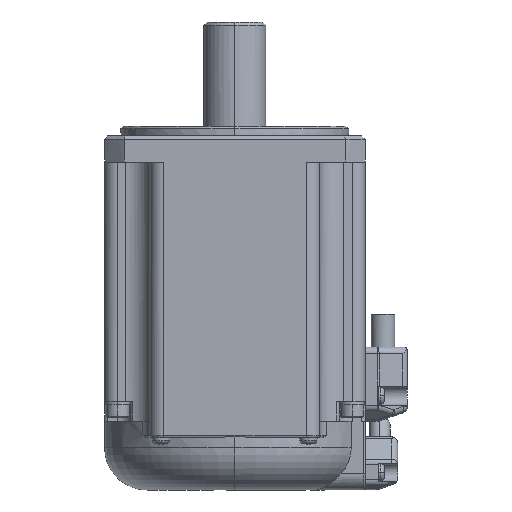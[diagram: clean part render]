
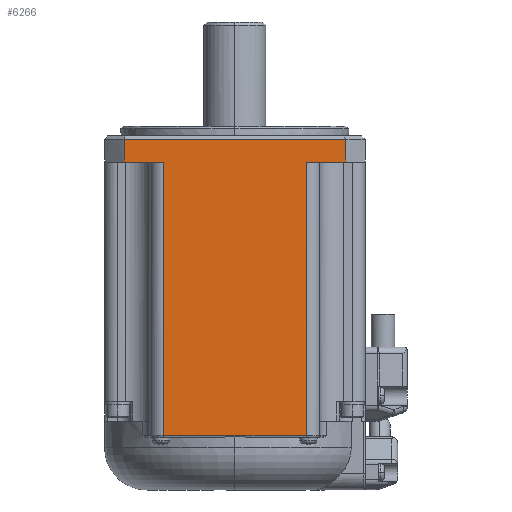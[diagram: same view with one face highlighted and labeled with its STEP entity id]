
A CAD part, left-side view. The second image highlights one B-rep face of the part: STEP entity #6266.
In plain terms, the highlighted planar face has unit normal (-1, 0, 0).
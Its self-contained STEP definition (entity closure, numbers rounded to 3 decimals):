
#1309 = VERTEX_POINT ( 'NONE', #6512 ) ;
#1343 = VERTEX_POINT ( 'NONE', #6546 ) ;
#1347 = VERTEX_POINT ( 'NONE', #6550 ) ;
#1355 = VERTEX_POINT ( 'NONE', #6558 ) ;
#1374 = VERTEX_POINT ( 'NONE', #6577 ) ;
#1381 = VERTEX_POINT ( 'NONE', #13900 ) ;
#1386 = VERTEX_POINT ( 'NONE', #13905 ) ;
#1606 = AXIS2_PLACEMENT_3D ( 'NONE', #3225, #3226, #3227 ) ;
#2059 = EDGE_CURVE ( 'NONE', #1381, #1343, #6179, .T. ) ;
#2102 = EDGE_CURVE ( 'NONE', #1309, #1386, #11440, .T. ) ;
#2144 = EDGE_CURVE ( 'NONE', #9218, #1355, #11473, .T. ) ;
#2145 = EDGE_CURVE ( 'NONE', #1309, #9218, #11476, .T. ) ;
#2146 = EDGE_CURVE ( 'NONE', #9291, #1386, #11478, .T. ) ;
#2147 = EDGE_CURVE ( 'NONE', #1381, #9291, #11480, .T. ) ;
#3224 = PLANE ( 'NONE',  #1606 ) ;
#3225 = CARTESIAN_POINT ( 'NONE',  ( -40., 23.1, -82.713 ) ) ;
#3226 = DIRECTION ( 'NONE',  ( -1., 0., 0. ) ) ;
#3227 = DIRECTION ( 'NONE',  ( 0., -1., 0. ) ) ;
#4403 = LINE ( 'NONE', #11434, #4405 ) ;
#4405 = VECTOR ( 'NONE', #11435, 1000. ) ;
#4411 = LINE ( 'NONE', #11610, #4412 ) ;
#4412 = VECTOR ( 'NONE', #11611, 1000. ) ;
#6039 = LINE ( 'NONE', #19561, #6040 ) ;
#6040 = VECTOR ( 'NONE', #19562, 1000. ) ;
#6179 = LINE ( 'NONE', #14270, #6180 ) ;
#6180 = VECTOR ( 'NONE', #14271, 1000. ) ;
#6266 = ADVANCED_FACE ( 'NONE', ( #8122 ), #3224, .T. ) ;
#6512 = CARTESIAN_POINT ( 'NONE',  ( -40., 22., 1.5 ) ) ;
#6546 = CARTESIAN_POINT ( 'NONE',  ( -40., -22., 1.5 ) ) ;
#6550 = CARTESIAN_POINT ( 'NONE',  ( -40., -34.004, 8.5 ) ) ;
#6558 = CARTESIAN_POINT ( 'NONE',  ( -40., 34.004, 8.5 ) ) ;
#6577 = CARTESIAN_POINT ( 'NONE',  ( -40., -34.004, 1.5 ) ) ;
#8122 = FACE_OUTER_BOUND ( 'NONE', #20284, .T. ) ;
#9218 = VERTEX_POINT ( 'NONE', #10960 ) ;
#9291 = VERTEX_POINT ( 'NONE', #11033 ) ;
#10960 = CARTESIAN_POINT ( 'NONE',  ( -40., 34.004, 1.5 ) ) ;
#11033 = CARTESIAN_POINT ( 'NONE',  ( -40., 0., -82.6 ) ) ;
#11434 = CARTESIAN_POINT ( 'NONE',  ( -40., -34.004, 0.85 ) ) ;
#11435 = DIRECTION ( 'NONE',  ( 0., 0., 1. ) ) ;
#11440 = LINE ( 'NONE', #14453, #11441 ) ;
#11441 = VECTOR ( 'NONE', #14454, 1000. ) ;
#11473 = LINE ( 'NONE', #14655, #11475 ) ;
#11475 = VECTOR ( 'NONE', #14656, 1000. ) ;
#11476 = LINE ( 'NONE', #14657, #11477 ) ;
#11477 = VECTOR ( 'NONE', #14658, 1000. ) ;
#11478 = LINE ( 'NONE', #14659, #11479 ) ;
#11479 = VECTOR ( 'NONE', #14660, 1000. ) ;
#11480 = LINE ( 'NONE', #14661, #11481 ) ;
#11481 = VECTOR ( 'NONE', #14662, 1000. ) ;
#11610 = CARTESIAN_POINT ( 'NONE',  ( -40., 0., 8.5 ) ) ;
#11611 = DIRECTION ( 'NONE',  ( 0., 1., 0. ) ) ;
#13900 = CARTESIAN_POINT ( 'NONE',  ( -40., -22., -82.6 ) ) ;
#13905 = CARTESIAN_POINT ( 'NONE',  ( -40., 22., -82.6 ) ) ;
#14270 = CARTESIAN_POINT ( 'NONE',  ( -40., -22., -80.35 ) ) ;
#14271 = DIRECTION ( 'NONE',  ( 0., 0., 1. ) ) ;
#14453 = CARTESIAN_POINT ( 'NONE',  ( -40., 22., -80.35 ) ) ;
#14454 = DIRECTION ( 'NONE',  ( 0., 0., -1. ) ) ;
#14655 = CARTESIAN_POINT ( 'NONE',  ( -40., 34.004, 5. ) ) ;
#14656 = DIRECTION ( 'NONE',  ( 0., 0., 1. ) ) ;
#14657 = CARTESIAN_POINT ( 'NONE',  ( -40., 31., 1.5 ) ) ;
#14658 = DIRECTION ( 'NONE',  ( 0., 1., 0. ) ) ;
#14659 = CARTESIAN_POINT ( 'NONE',  ( -40., 11., -82.6 ) ) ;
#14660 = DIRECTION ( 'NONE',  ( 0., 1., 0. ) ) ;
#14661 = CARTESIAN_POINT ( 'NONE',  ( -40., -11., -82.6 ) ) ;
#14662 = DIRECTION ( 'NONE',  ( 0., 1., 0. ) ) ;
#15345 = ORIENTED_EDGE ( 'NONE', *, *, #2059, .T. ) ;
#15346 = ORIENTED_EDGE ( 'NONE', *, *, #19933, .T. ) ;
#15347 = ORIENTED_EDGE ( 'NONE', *, *, #17921, .T. ) ;
#15348 = ORIENTED_EDGE ( 'NONE', *, *, #17929, .T. ) ;
#15349 = ORIENTED_EDGE ( 'NONE', *, *, #2144, .F. ) ;
#15350 = ORIENTED_EDGE ( 'NONE', *, *, #2145, .F. ) ;
#15351 = ORIENTED_EDGE ( 'NONE', *, *, #2102, .T. ) ;
#15352 = ORIENTED_EDGE ( 'NONE', *, *, #2146, .F. ) ;
#15353 = ORIENTED_EDGE ( 'NONE', *, *, #2147, .F. ) ;
#17921 = EDGE_CURVE ( 'NONE', #1374, #1347, #4403, .T. ) ;
#17929 = EDGE_CURVE ( 'NONE', #1347, #1355, #4411, .T. ) ;
#19561 = CARTESIAN_POINT ( 'NONE',  ( -40., 0., 1.5 ) ) ;
#19562 = DIRECTION ( 'NONE',  ( 0., -1., 0. ) ) ;
#19933 = EDGE_CURVE ( 'NONE', #1343, #1374, #6039, .T. ) ;
#20284 = EDGE_LOOP ( 'NONE', ( #15345, #15346, #15347, #15348, #15349, #15350, #15351, #15352, #15353 ) ) ;
